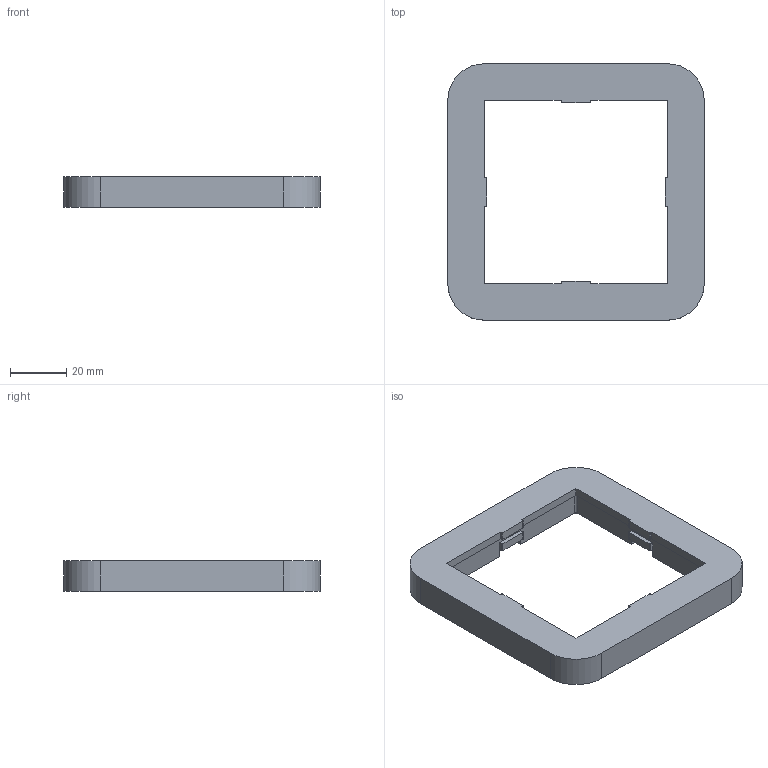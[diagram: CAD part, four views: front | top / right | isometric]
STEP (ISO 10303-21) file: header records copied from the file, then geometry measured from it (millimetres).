
FILE_DESCRIPTION(('Open CASCADE Model'),'2;1');
FILE_NAME('Open CASCADE Shape Model','2026-09-20T16:03:30',('Author'),( 'Open CASCADE'),'Open CASCADE STEP processor 8.0','Open CASCADE 8.0' ,'Unknown');
FILE_SCHEMA(('AP242_MANAGED_MODEL_BASED_3D_ENGINEERING_MIM_LF {1 0 10303 442 1 1 4 }' ));
Length unit declared in the file: millimetre
Products named in the file (1): Open CASCADE STEP translator 8.0 2
Bounding box: 91 x 91 x 11 mm (x, y, z)
Volume: 41152.9 mm3; surface area: 15158.7 mm2
Topology: 1 solids, 1 shells, 109 faces, 289 edges, 190 vertices
Faces by surface type: plane 70, cylinder 39
Full cylindrical faces by diameter (mm): 2.5 x7
Entity records: 7232 total; most frequent: CARTESIAN_POINT 1335, DIRECTION 1137, LINE 711, VECTOR 711, ORIENTED_EDGE 578, PCURVE 578, DEFINITIONAL_REPRESENTATION 578, EDGE_CURVE 289
